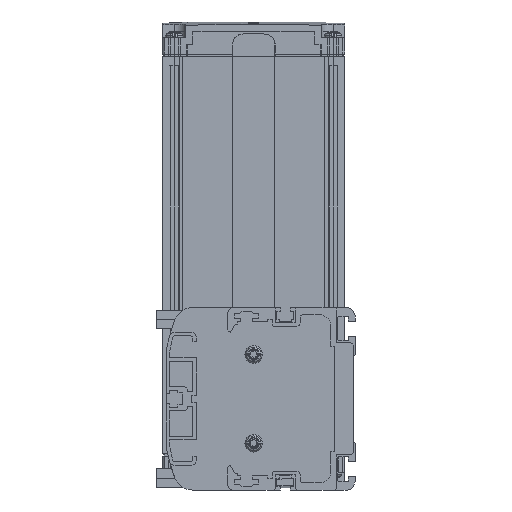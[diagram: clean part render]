
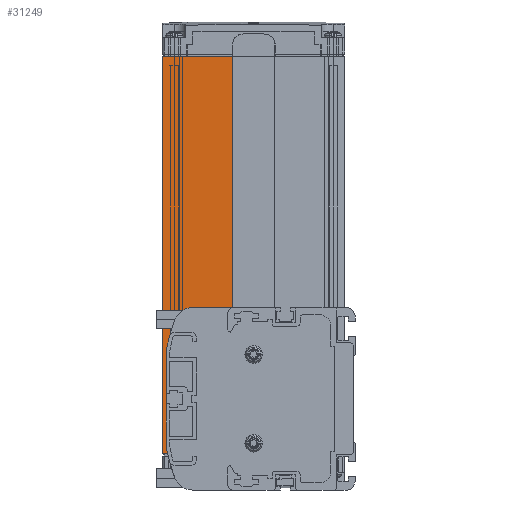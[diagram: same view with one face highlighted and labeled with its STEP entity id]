
A CAD part, left-side view. The second image highlights one B-rep face of the part: STEP entity #31249.
In plain terms, the highlighted planar face has unit normal (-1, 0, 0).
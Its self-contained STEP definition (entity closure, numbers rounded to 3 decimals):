
#4753=CARTESIAN_POINT('',(3.,79.,19.823));
#4754=DIRECTION('',(1.,0.,0.));
#4755=DIRECTION('',(0.,1.,0.));
#4756=AXIS2_PLACEMENT_3D('',#4753,#4754,#4755);
#4766=DIRECTION('',(0.,0.,1.));
#4767=VECTOR('',#4766,39.645);
#4768=CARTESIAN_POINT('',(3.,81.,-19.823));
#4769=LINE('',#4768,#4767);
#4806=CARTESIAN_POINT('',(3.,79.,-19.823));
#4807=DIRECTION('',(-1.,0.,0.));
#4808=DIRECTION('',(0.,1.,0.));
#4809=AXIS2_PLACEMENT_3D('',#4806,#4807,#4808);
#4820=CARTESIAN_POINT('',(3.,2.235,-6.));
#4821=DIRECTION('',(1.,0.,0.));
#4822=DIRECTION('',(0.,0.976,-0.219));
#4823=AXIS2_PLACEMENT_3D('',#4820,#4821,#4822);
#5155=CARTESIAN_POINT('',(3.,2.235,6.));
#5156=DIRECTION('',(1.,0.,0.));
#5157=DIRECTION('',(0.,0.984,0.177));
#5158=AXIS2_PLACEMENT_3D('',#5155,#5156,#5157);
#5168=DIRECTION('',(0.,-1.,0.));
#5169=VECTOR('',#5168,2.203);
#5170=CARTESIAN_POINT('',(3.,82.5,-23.5));
#5171=LINE('',#5170,#5169);
#5172=DIRECTION('',(0.,0.,-1.));
#5173=VECTOR('',#5172,170.);
#5174=CARTESIAN_POINT('',(3.,82.5,146.5));
#5175=LINE('',#5174,#5173);
#5176=DIRECTION('',(0.,1.,0.));
#5177=VECTOR('',#5176,29.9);
#5178=CARTESIAN_POINT('',(3.,52.6,146.5));
#5179=LINE('',#5178,#5177);
#5180=DIRECTION('',(0.,-1.,0.));
#5181=VECTOR('',#5180,17.155);
#5182=CARTESIAN_POINT('',(3.,69.755,39.));
#5183=LINE('',#5182,#5181);
#15154=DIRECTION('',(0.,0.,1.));
#15155=VECTOR('',#15154,107.5);
#15156=CARTESIAN_POINT('',(3.,52.6,39.));
#15157=LINE('',#15156,#15155);
#15190=CARTESIAN_POINT('',(3.,69.755,31.));
#15191=DIRECTION('',(-1.,0.,0.));
#15192=DIRECTION('',(0.,0.,1.));
#15193=AXIS2_PLACEMENT_3D('',#15190,#15191,#15192);
#19385=CARTESIAN_POINT('',(3.,82.5,-23.5));
#19387=VERTEX_POINT('',#19385);
#19482=CARTESIAN_POINT('',(3.,52.6,146.5));
#19483=VERTEX_POINT('',#19482);
#19484=CARTESIAN_POINT('',(3.,82.5,146.5));
#19485=VERTEX_POINT('',#19484);
#23832=CARTESIAN_POINT('',(3.,69.755,39.));
#23833=CARTESIAN_POINT('',(3.,52.6,39.));
#23834=VERTEX_POINT('',#23832);
#23835=VERTEX_POINT('',#23833);
#23836=CARTESIAN_POINT('',(3.,80.297,-23.5));
#23838=VERTEX_POINT('',#23836);
#23860=CARTESIAN_POINT('',(3.,81.,-19.823));
#23861=CARTESIAN_POINT('',(3.,80.968,-20.177));
#23862=VERTEX_POINT('',#23860);
#23863=VERTEX_POINT('',#23861);
#23876=CARTESIAN_POINT('',(3.,77.257,33.778));
#23877=VERTEX_POINT('',#23876);
#23878=CARTESIAN_POINT('',(3.,80.968,20.177));
#23879=VERTEX_POINT('',#23878);
#23880=CARTESIAN_POINT('',(3.,81.,19.823));
#23881=VERTEX_POINT('',#23880);
#31225=CARTESIAN_POINT('',(3.,67.55,61.5));
#31226=DIRECTION('',(1.,0.,0.));
#31227=DIRECTION('',(0.,-1.,0.));
#31228=AXIS2_PLACEMENT_3D('',#31225,#31226,#31227);
#31229=PLANE('',#31228);
#31231=ORIENTED_EDGE('',*,*,#31230,.F.);
#31233=ORIENTED_EDGE('',*,*,#31232,.T.);
#31234=ORIENTED_EDGE('',*,*,#31212,.F.);
#31235=ORIENTED_EDGE('',*,*,#30640,.F.);
#31236=ORIENTED_EDGE('',*,*,#30655,.F.);
#31237=ORIENTED_EDGE('',*,*,#30694,.T.);
#31238=ORIENTED_EDGE('',*,*,#30715,.F.);
#31240=ORIENTED_EDGE('',*,*,#31239,.F.);
#31242=ORIENTED_EDGE('',*,*,#31241,.F.);
#31244=ORIENTED_EDGE('',*,*,#31243,.F.);
#31246=ORIENTED_EDGE('',*,*,#31245,.F.);
#31247=EDGE_LOOP('',(#31231,#31233,#31234,#31235,#31236,#31237,#31238,#31240,
#31242,#31244,#31246));
#31248=FACE_OUTER_BOUND('',#31247,.F.);
#31249=ADVANCED_FACE('',(#31248),#31229,.F.);
#4757=CIRCLE('',#4756,2.);
#4810=CIRCLE('',#4809,2.);
#4824=CIRCLE('',#4823,80.);
#5159=CIRCLE('',#5158,80.);
#15194=CIRCLE('',#15193,8.);
#30640=EDGE_CURVE('',#23881,#23879,#4757,.T.);
#30655=EDGE_CURVE('',#23862,#23881,#4769,.T.);
#30694=EDGE_CURVE('',#23862,#23863,#4810,.T.);
#30715=EDGE_CURVE('',#23838,#23863,#4824,.T.);
#31212=EDGE_CURVE('',#23879,#23877,#5159,.T.);
#31230=EDGE_CURVE('',#23834,#23835,#5183,.T.);
#31232=EDGE_CURVE('',#23834,#23877,#15194,.T.);
#31239=EDGE_CURVE('',#19387,#23838,#5171,.T.);
#31241=EDGE_CURVE('',#19485,#19387,#5175,.T.);
#31243=EDGE_CURVE('',#19483,#19485,#5179,.T.);
#31245=EDGE_CURVE('',#23835,#19483,#15157,.T.);
